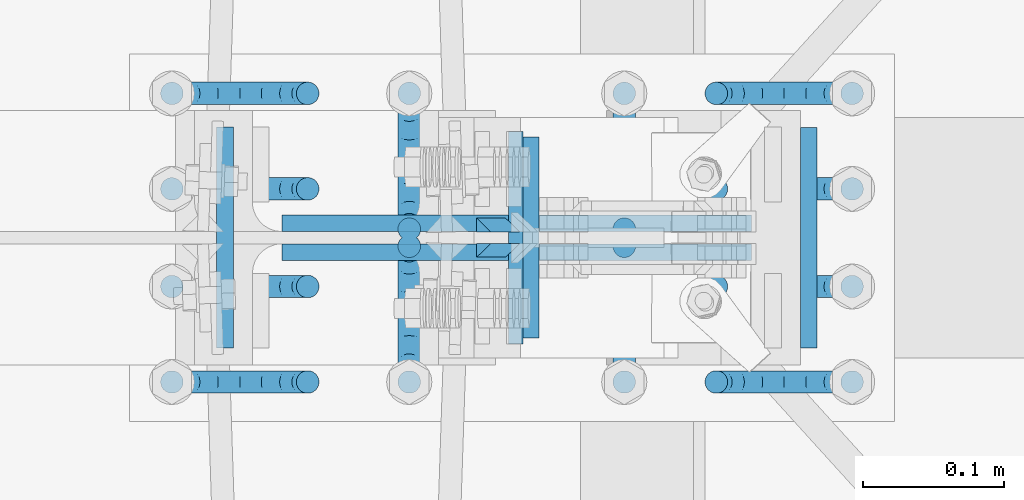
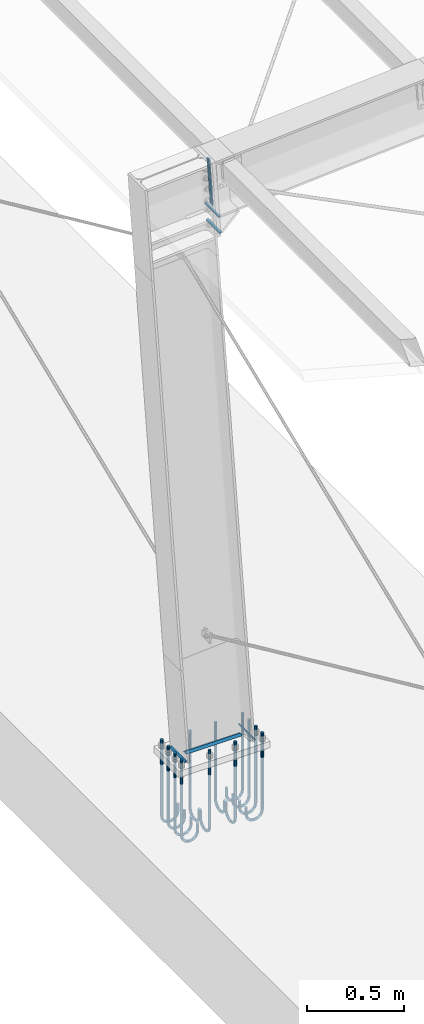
# One storey, part 16 of 72: 16 fasteners, 3 reinforcing bars.
"""IFC4 building model written with IfcOpenShell, lengths in metres."""

from ifc_helpers import new_model, entity, si_unit, frame, origin_with_axes, place, context, project, spatial, polyline, outline, extrude, source, transform, mapped, type_object, element, save


model = new_model("IFC4")

# Units and contexts
model_context = context("Model", 3, precision=1e-05, world=origin_with_axes())
ifc_project = project(units=[si_unit("LENGTHUNIT", "METRE"), si_unit("AREAUNIT", "SQUARE_METRE"), si_unit("VOLUMEUNIT", "CUBIC_METRE"), si_unit("MASSUNIT", "GRAM", prefix="KILO"), si_unit("TIMEUNIT", "SECOND"), si_unit("PLANEANGLEUNIT", "RADIAN"), si_unit("SOLIDANGLEUNIT", "STERADIAN"), si_unit("THERMODYNAMICTEMPERATUREUNIT", "DEGREE_CELSIUS")], contexts=[model_context])

# Site, building, storey
placement_1 = place(None, origin_with_axes())
site = spatial("IfcSite", under=ifc_project, at=placement_1, Name="Italia", CompositionType="ELEMENT")
building = spatial("IfcBuilding", under=site, at=placement_1, Name="Pensilina", CompositionType="ELEMENT")
storey = spatial("IfcBuildingStorey", under=building, at=placement_1, Name="Storey 0", CompositionType="ELEMENT", Elevation=0.0)

# Fasteners
fastener_type_1 = type_object("IfcFastenerType", Name="Collegamento 0003_-198", PredefinedType="WELD")
placement_2 = place(placement_1, origin_with_axes())
fastener_1_placement = place(placement_2, origin_with_axes())
element("IfcFastener", 1, at=fastener_1_placement, inside=storey, type_object=fastener_type_1, Name="Collegamento 0003_-198", context=model_context, shape_type="SweptSolid", body=[
    extrude(outline(polyline([(0.0, 0.0, 0.0), (0.0118082, 0.0121734, 0.0), (0.0118082, 0.0, 0.0), (0.0, 0.0, 0.0)])), frame((1.14428, 10.4819, 0.103658), z_axis=(0.0, 1.0, 0.0), x_axis=(-1.0, 0.0, 0.0)), (0.0, 0.0, 1.0), 0.156101),
])
fastener_type_2 = type_object("IfcFastenerType", Name="Collegamento 0003_-198", PredefinedType="WELD")
fastener_2_placement = place(placement_2, origin_with_axes())
element("IfcFastener", 2, at=fastener_2_placement, inside=storey, type_object=fastener_type_2, Name="Collegamento 0003_-198", context=model_context, shape_type="SweptSolid", body=[
    extrude(outline(polyline([(0.0, 0.0, 0.0), (0.0118082, 0.0121734, 0.0), (0.0118082, 0.0, 0.0), (0.0, 0.0, 0.0)])), frame((0.719817, 10.6381, 0.103658), z_axis=(0.0, -1.0, 0.0), x_axis=(1.0, 0.0, 0.0)), (0.0, 0.0, 1.0), 0.1561),
])
fastener_type_3 = type_object("IfcFastenerType", Name="Collegamento 0003_-198", PredefinedType="WELD")
fastener_3_placement = place(placement_2, origin_with_axes())
element("IfcFastener", 3, at=fastener_3_placement, inside=storey, type_object=fastener_type_3, Name="Collegamento 0003_-198", context=model_context, shape_type="SweptSolid", body=[
    extrude(outline(polyline([(0.0, 0.0, 0.0), (0.0118074, 0.0121734, 0.0), (0.0118074, 0.0, 0.0), (0.0, 0.0, 0.0)])), frame((0.766057, 10.5439, 0.103658), z_axis=(1.0, 0.0, 0.0), x_axis=(0.0, 1.0, 0.0)), (0.0, 0.0, 1.0), 0.331979),
])
fastener_type_4 = type_object("IfcFastenerType", Name="Collegamento 0003_-198", PredefinedType="WELD")
fastener_4_placement = place(placement_2, origin_with_axes())
element("IfcFastener", 4, at=fastener_4_placement, inside=storey, type_object=fastener_type_4, Name="Collegamento 0003_-198", context=model_context, shape_type="SweptSolid", body=[
    extrude(outline(polyline([(0.0, 0.0, 0.0), (0.0118074, 0.0121734, 0.0), (0.0118074, 0.0, 0.0), (0.0, 0.0, 0.0)])), frame((1.09804, 10.5761, 0.103658), z_axis=(-1.0, 0.0, 0.0), x_axis=(0.0, -1.0, 0.0)), (0.0, 0.0, 1.0), 0.331979),
])
fastener_type_5 = type_object("IfcFastenerType", Name="Collegamento 0003_-198", PredefinedType="WELD")
fastener_5_placement = place(placement_2, origin_with_axes())
element("IfcFastener", 5, at=fastener_5_placement, inside=storey, type_object=fastener_type_5, Name="Collegamento 0003_-198", context=model_context, shape_type="SweptSolid", body=[
    extrude(outline(polyline([(0.0, 0.0, 0.0), (0.0118082, 0.0121734, 0.0), (0.0118082, 0.0, 0.0), (0.0, 0.0, 0.0)])), frame((1.14428, 10.4819, 0.103658), z_axis=(0.0, 1.0, 0.0), x_axis=(-1.0, 0.0, 0.0)), (0.0, 0.0, 1.0), 0.156101),
])
fastener_type_6 = type_object("IfcFastenerType", Name="Collegamento 0003_-198", PredefinedType="WELD")
fastener_6_placement = place(placement_2, origin_with_axes())
element("IfcFastener", 6, at=fastener_6_placement, inside=storey, type_object=fastener_type_6, Name="Collegamento 0003_-198", context=model_context, shape_type="SweptSolid", body=[
    extrude(outline(polyline([(0.0, 0.0, 0.0), (0.0118082, 0.0121734, 0.0), (0.0118082, 0.0, 0.0), (0.0, 0.0, 0.0)])), frame((0.719817, 10.6381, 0.103658), z_axis=(0.0, -1.0, 0.0), x_axis=(1.0, 0.0, 0.0)), (0.0, 0.0, 1.0), 0.1561),
])
fastener_type_7 = type_object("IfcFastenerType", Name="Collegamento 0003_-198", PredefinedType="WELD")
fastener_7_placement = place(placement_2, origin_with_axes())
element("IfcFastener", 7, at=fastener_7_placement, inside=storey, type_object=fastener_type_7, Name="Collegamento 0003_-198", context=model_context, shape_type="SweptSolid", body=[
    extrude(outline(polyline([(0.0, 0.0, 0.0), (0.0118074, 0.0121734, 0.0), (0.0118074, 0.0, 0.0), (0.0, 0.0, 0.0)])), frame((0.766057, 10.5439, 0.103658), z_axis=(1.0, 0.0, 0.0), x_axis=(0.0, 1.0, 0.0)), (0.0, 0.0, 1.0), 0.331979),
])
fastener_type_8 = type_object("IfcFastenerType", Name="Collegamento 0003_-198", PredefinedType="WELD")
fastener_8_placement = place(placement_2, origin_with_axes())
element("IfcFastener", 8, at=fastener_8_placement, inside=storey, type_object=fastener_type_8, Name="Collegamento 0003_-198", context=model_context, shape_type="SweptSolid", body=[
    extrude(outline(polyline([(0.0, 0.0, 0.0), (0.0118074, 0.0121734, 0.0), (0.0118074, 0.0, 0.0), (0.0, 0.0, 0.0)])), frame((1.09804, 10.5761, 0.103658), z_axis=(-1.0, 0.0, 0.0), x_axis=(0.0, -1.0, 0.0)), (0.0, 0.0, 1.0), 0.331979),
])

# Reinforcing bars
shared_shape_1 = source(origin_with_axes(), model_context, "Body", "AdvancedSweptSolid", [
    entity("IfcSweptDiskSolid", entity("IfcIndexedPolyCurve", entity("IfcCartesianPointList3D", [[0.68823, 10.662, 0.153708], [0.68823, 10.662, -0.330292]]), [entity("IfcLineIndex", [1, 2])], False), 0.008),
])
reinforcing_bar_1_placement = place(placement_2, origin_with_axes())
element("IfcReinforcingBar", 9, at=reinforcing_bar_1_placement, inside=storey, BarLength=0.484, CrossSectionArea=0.00020106, NominalDiameter=0.016, context=model_context, shape_type="MappedRepresentation", body=[
    mapped(shared_shape_1, transform((0.4809, 0.0, 0.0), x_axis=(1.0, 0.0, 0.0), y_axis=(0.0, 1.0, 0.0), z_axis=(0.0, 0.0, 1.0), scale=1.0)),
    mapped(shared_shape_1, transform((0.319817, -0.204, 0.0), x_axis=(1.0, 0.0, 0.0), y_axis=(0.0, 1.0, 0.0), z_axis=(0.0, 0.0, 1.0), scale=1.0)),
    mapped(shared_shape_1, transform((0.319817, 0.0, 0.0), x_axis=(1.0, 0.0, 0.0), y_axis=(0.0, 1.0, 0.0), z_axis=(0.0, 0.0, 1.0), scale=1.0)),
    mapped(shared_shape_1, transform((0.4809, -0.204, 0.0), x_axis=(1.0, 0.0, 0.0), y_axis=(0.0, 1.0, 0.0), z_axis=(0.0, 0.0, 1.0), scale=1.0)),
    mapped(shared_shape_1, transform((0.4809, -0.1365, 0.0), x_axis=(1.0, 0.0, 0.0), y_axis=(0.0, 1.0, 0.0), z_axis=(0.0, 0.0, 1.0), scale=1.0)),
    mapped(shared_shape_1, transform((0.4809, -0.0675001, 0.0), x_axis=(1.0, 0.0, 0.0), y_axis=(0.0, 1.0, 0.0), z_axis=(0.0, 0.0, 1.0), scale=1.0)),
    mapped(shared_shape_1, transform((0.0, -0.1365, 0.0), x_axis=(1.0, 0.0, 0.0), y_axis=(0.0, 1.0, 0.0), z_axis=(0.0, 0.0, 1.0), scale=1.0)),
    mapped(shared_shape_1, transform((0.0, -0.0675001, 0.0), x_axis=(1.0, 0.0, 0.0), y_axis=(0.0, 1.0, 0.0), z_axis=(0.0, 0.0, 1.0), scale=1.0)),
    mapped(shared_shape_1, transform((0.0, 0.0, 0.0), x_axis=(1.0, 0.0, 0.0), y_axis=(0.0, 1.0, 0.0), z_axis=(0.0, 0.0, 1.0), scale=1.0)),
    mapped(shared_shape_1, transform((0.167817, -0.204, 0.0), x_axis=(1.0, 0.0, 0.0), y_axis=(0.0, 1.0, 0.0), z_axis=(0.0, 0.0, 1.0), scale=1.0)),
    mapped(shared_shape_1, transform((0.167817, 0.0, 0.0), x_axis=(1.0, 0.0, 0.0), y_axis=(0.0, 1.0, 0.0), z_axis=(0.0, 0.0, 1.0), scale=1.0)),
    mapped(shared_shape_1, transform((0.0, -0.204, 0.0), x_axis=(1.0, 0.0, 0.0), y_axis=(0.0, 1.0, 0.0), z_axis=(0.0, 0.0, 1.0), scale=1.0)),
])
shared_shape_2 = source(origin_with_axes(), model_context, "Body", "AdvancedSweptSolid", [
    entity("IfcSweptDiskSolid", entity("IfcIndexedPolyCurve", entity("IfcCartesianPointList3D", [[0.68823, 10.662, -0.330292], [0.691883, 10.662, -0.348661]]), [entity("IfcLineIndex", [1, 2])], False), 0.008),
])
reinforcing_bar_2_placement = place(placement_2, origin_with_axes())
element("IfcReinforcingBar", 10, at=reinforcing_bar_2_placement, inside=storey, BarLength=0.0187287, CrossSectionArea=0.00020106, NominalDiameter=0.016, context=model_context, shape_type="MappedRepresentation", body=[
    mapped(shared_shape_2, transform((0.0, -0.204, 0.0), x_axis=(1.0, 0.0, 0.0), y_axis=(0.0, 1.0, 0.0), z_axis=(0.0, 0.0, 1.0), scale=1.0)),
    mapped(shared_shape_2, transform((-9.80595, 11.4206, -0.30687), x_axis=(0.0, -0.923887, 0.382666), y_axis=(1.0, 0.0, 0.0), z_axis=(0.0, 0.382666, 0.923887), scale=1.0)),
    mapped(shared_shape_2, transform((-0.0703552, -0.204, -0.306887), x_axis=(0.923879, 0.0, 0.382685), y_axis=(0.0, 1.0, 0.0), z_axis=(-0.382685, 0.0, 0.923879), scale=1.0)),
    mapped(shared_shape_2, transform((-0.0179144, 0.0, -0.617335), x_axis=(0.707105, 0.0, 0.707108), y_axis=(0.0, 1.0, 0.0), z_axis=(-0.707108, 0.0, 0.707105), scale=1.0)),
    mapped(shared_shape_2, transform((0.149338, -0.0675001, -0.884083), x_axis=(0.382682, 0.0, 0.92388), y_axis=(0.0, 1.0, 0.0), z_axis=(-0.92388, 0.0, 0.382682), scale=1.0)),
    mapped(shared_shape_2, transform((-0.0179144, -0.0675001, -0.617335), x_axis=(0.707105, 0.0, 0.707108), y_axis=(0.0, 1.0, 0.0), z_axis=(-0.707108, 0.0, 0.707105), scale=1.0)),
    mapped(shared_shape_2, transform((1.02327, -0.204, -1.08444), x_axis=(-0.707106, 0.0, 0.707108), y_axis=(0.0, 1.0, 0.0), z_axis=(-0.707108, 0.0, -0.707106), scale=1.0)),
    mapped(shared_shape_2, transform((0.149338, -0.204, -0.884083), x_axis=(0.382682, 0.0, 0.92388), y_axis=(0.0, 1.0, 0.0), z_axis=(-0.92388, 0.0, 0.382682), scale=1.0)),
    mapped(shared_shape_2, transform((-9.80595, 10.3269, -1.08443), x_axis=(0.0, 0.707119, 0.707095), y_axis=(1.0, 0.0, 0.0), z_axis=(0.0, 0.707095, -0.707119), scale=1.0)),
    mapped(shared_shape_2, transform((-9.80595, 11.2009, -0.884085), x_axis=(0.0, -0.382679, 0.923881), y_axis=(1.0, 0.0, 0.0), z_axis=(0.0, 0.923881, 0.382679), scale=1.0)),
    mapped(shared_shape_2, transform((0.712824, -0.0675001, -1.13688), x_axis=(-0.382684, 0.0, 0.923879), y_axis=(0.0, 1.0, 0.0), z_axis=(-0.923879, 0.0, -0.382684), scale=1.0)),
    mapped(shared_shape_2, transform((-9.80595, 10.9443, -1.06652), x_axis=(0.0, 0.0, 1.0), y_axis=(1.0, 0.0, 0.0), z_axis=(0.0, 1.0, 0.0), scale=1.0)),
    mapped(shared_shape_2, transform((1.29002, -0.204, -0.917183), x_axis=(-0.923881, 0.0, 0.382679), y_axis=(0.0, 1.0, 0.0), z_axis=(-0.382679, 0.0, -0.923881), scale=1.0)),
    mapped(shared_shape_2, transform((11.518, 10.4826, -1.13688), x_axis=(0.0, -0.382692, 0.923876), y_axis=(-1.0, 0.0, 0.0), z_axis=(0.0, -0.923876, -0.382692), scale=1.0)),
    mapped(shared_shape_2, transform((-0.0703552, 0.0, -0.306887), x_axis=(0.923879, 0.0, 0.382685), y_axis=(0.0, 1.0, 0.0), z_axis=(-0.382685, 0.0, 0.923879), scale=1.0)),
    mapped(shared_shape_2, transform((0.149338, 0.0, -0.884083), x_axis=(0.382682, 0.0, 0.92388), y_axis=(0.0, 1.0, 0.0), z_axis=(-0.92388, 0.0, 0.382682), scale=1.0)),
    mapped(shared_shape_2, transform((0.405939, 0.0, -1.06652), x_axis=(0.0, 0.0, 1.0), y_axis=(0.0, 1.0, 0.0), z_axis=(-1.0, 0.0, 0.0), scale=1.0)),
    mapped(shared_shape_2, transform((0.712824, -0.204, -1.13688), x_axis=(-0.382684, 0.0, 0.923879), y_axis=(0.0, 1.0, 0.0), z_axis=(-0.923879, 0.0, -0.382684), scale=1.0)),
    mapped(shared_shape_2, transform((1.02327, -0.1365, -1.08444), x_axis=(-0.707106, 0.0, 0.707108), y_axis=(0.0, 1.0, 0.0), z_axis=(-0.707108, 0.0, -0.707106), scale=1.0)),
    mapped(shared_shape_2, transform((0.712824, -0.1365, -1.13688), x_axis=(-0.382684, 0.0, 0.923879), y_axis=(0.0, 1.0, 0.0), z_axis=(-0.923879, 0.0, -0.382684), scale=1.0)),
    mapped(shared_shape_2, transform((1.02327, 0.0, -1.08444), x_axis=(-0.707106, 0.0, 0.707108), y_axis=(0.0, 1.0, 0.0), z_axis=(-0.707108, 0.0, -0.707106), scale=1.0)),
    mapped(shared_shape_2, transform((1.02327, -0.0675001, -1.08444), x_axis=(-0.707106, 0.0, 0.707108), y_axis=(0.0, 1.0, 0.0), z_axis=(-0.707108, 0.0, -0.707106), scale=1.0)),
    mapped(shared_shape_2, transform((-9.80595, 11.3681, -0.617336), x_axis=(0.0, -0.707104, 0.70711), y_axis=(1.0, 0.0, 0.0), z_axis=(0.0, 0.70711, 0.707104), scale=1.0)),
    mapped(shared_shape_2, transform((-0.0179144, -0.204, -0.617335), x_axis=(0.707105, 0.0, 0.707108), y_axis=(0.0, 1.0, 0.0), z_axis=(-0.707108, 0.0, 0.707105), scale=1.0)),
    mapped(shared_shape_2, transform((0.0, -0.1365, 0.0), x_axis=(1.0, 0.0, 0.0), y_axis=(0.0, 1.0, 0.0), z_axis=(0.0, 0.0, 1.0), scale=1.0)),
    mapped(shared_shape_2, transform((0.405939, -0.204, -1.06652), x_axis=(0.0, 0.0, 1.0), y_axis=(0.0, 1.0, 0.0), z_axis=(-1.0, 0.0, 0.0), scale=1.0)),
    mapped(shared_shape_2, transform((1.29002, -0.1365, -0.917183), x_axis=(-0.923881, 0.0, 0.382679), y_axis=(0.0, 1.0, 0.0), z_axis=(-0.382679, 0.0, -0.923881), scale=1.0)),
    mapped(shared_shape_2, transform((-0.0179144, -0.1365, -0.617335), x_axis=(0.707105, 0.0, 0.707108), y_axis=(0.0, 1.0, 0.0), z_axis=(-0.707108, 0.0, 0.707105), scale=1.0)),
    mapped(shared_shape_2, transform((-0.0703552, -0.1365, -0.306887), x_axis=(0.923879, 0.0, 0.382685), y_axis=(0.0, 1.0, 0.0), z_axis=(-0.382685, 0.0, 0.923879), scale=1.0)),
    mapped(shared_shape_2, transform((0.0, -0.0675001, 0.0), x_axis=(1.0, 0.0, 0.0), y_axis=(0.0, 1.0, 0.0), z_axis=(0.0, 0.0, 1.0), scale=1.0)),
    mapped(shared_shape_2, transform((0.149338, -0.1365, -0.884083), x_axis=(0.382682, 0.0, 0.92388), y_axis=(0.0, 1.0, 0.0), z_axis=(-0.92388, 0.0, 0.382682), scale=1.0)),
    mapped(shared_shape_2, transform((-0.0703552, -0.0675001, -0.306887), x_axis=(0.923879, 0.0, 0.382685), y_axis=(0.0, 1.0, 0.0), z_axis=(-0.382685, 0.0, 0.923879), scale=1.0)),
    mapped(shared_shape_2, transform((0.0, 0.0, 0.0), x_axis=(1.0, 0.0, 0.0), y_axis=(0.0, 1.0, 0.0), z_axis=(0.0, 0.0, 1.0), scale=1.0)),
    mapped(shared_shape_2, transform((0.712824, 0.0, -1.13688), x_axis=(-0.382684, 0.0, 0.923879), y_axis=(0.0, 1.0, 0.0), z_axis=(-0.923879, 0.0, -0.382684), scale=1.0)),
    mapped(shared_shape_2, transform((-9.65395, 10.3269, -1.08443), x_axis=(0.0, 0.707119, 0.707095), y_axis=(1.0, 0.0, 0.0), z_axis=(0.0, 0.707095, -0.707119), scale=1.0)),
    mapped(shared_shape_2, transform((0.405939, -0.1365, -1.06652), x_axis=(0.0, 0.0, 1.0), y_axis=(0.0, 1.0, 0.0), z_axis=(-1.0, 0.0, 0.0), scale=1.0)),
    mapped(shared_shape_2, transform((1.29002, -0.0675001, -0.917183), x_axis=(-0.923881, 0.0, 0.382679), y_axis=(0.0, 1.0, 0.0), z_axis=(-0.382679, 0.0, -0.923881), scale=1.0)),
    mapped(shared_shape_2, transform((-9.80595, 11.3502, -2.5779e-05), x_axis=(0.0, -1.0, 3.74466e-05), y_axis=(1.0, 0.0, 0.0), z_axis=(0.0, 3.74466e-05, 1.0), scale=1.0)),
    mapped(shared_shape_2, transform((-9.80595, 10.6374, -1.13688), x_axis=(0.0, 0.382692, 0.923876), y_axis=(1.0, 0.0, 0.0), z_axis=(0.0, 0.923876, -0.382692), scale=1.0)),
    mapped(shared_shape_2, transform((-9.65395, 10.9443, -1.06652), x_axis=(0.0, 0.0, 1.0), y_axis=(1.0, 0.0, 0.0), z_axis=(0.0, 1.0, 0.0), scale=1.0)),
    mapped(shared_shape_2, transform((0.405939, -0.0675001, -1.06652), x_axis=(0.0, 0.0, 1.0), y_axis=(0.0, 1.0, 0.0), z_axis=(-1.0, 0.0, 0.0), scale=1.0)),
    mapped(shared_shape_2, transform((11.67, 10.1757, -1.06652), x_axis=(0.0, 0.0, 1.0), y_axis=(-1.0, 0.0, 0.0), z_axis=(0.0, -1.0, 0.0), scale=1.0)),
    mapped(shared_shape_2, transform((1.29002, 0.0, -0.917183), x_axis=(-0.923881, 0.0, 0.382679), y_axis=(0.0, 1.0, 0.0), z_axis=(-0.382679, 0.0, -0.923881), scale=1.0)),
    mapped(shared_shape_2, transform((11.518, 9.76976, -2.5779e-05), x_axis=(0.0, 1.0, 3.74466e-05), y_axis=(-1.0, 0.0, 0.0), z_axis=(0.0, -3.74466e-05, 1.0), scale=1.0)),
    mapped(shared_shape_2, transform((11.518, 9.69942, -0.30687), x_axis=(0.0, 0.923887, 0.382666), y_axis=(-1.0, 0.0, 0.0), z_axis=(0.0, -0.382666, 0.923887), scale=1.0)),
    mapped(shared_shape_2, transform((11.67, 9.69942, -0.30687), x_axis=(0.0, 0.923887, 0.382666), y_axis=(-1.0, 0.0, 0.0), z_axis=(0.0, -0.382666, 0.923887), scale=1.0)),
    mapped(shared_shape_2, transform((11.518, 9.75186, -0.617336), x_axis=(0.0, 0.707104, 0.70711), y_axis=(-1.0, 0.0, 0.0), z_axis=(0.0, -0.70711, 0.707104), scale=1.0)),
    mapped(shared_shape_2, transform((11.67, 9.76976, -2.5779e-05), x_axis=(0.0, 1.0, 3.74466e-05), y_axis=(-1.0, 0.0, 0.0), z_axis=(0.0, -3.74466e-05, 1.0), scale=1.0)),
    mapped(shared_shape_2, transform((11.518, 9.91911, -0.884085), x_axis=(0.0, 0.382679, 0.923881), y_axis=(-1.0, 0.0, 0.0), z_axis=(0.0, -0.923881, 0.382679), scale=1.0)),
    mapped(shared_shape_2, transform((11.67, 9.75186, -0.617336), x_axis=(0.0, 0.707104, 0.70711), y_axis=(-1.0, 0.0, 0.0), z_axis=(0.0, -0.70711, 0.707104), scale=1.0)),
    mapped(shared_shape_2, transform((11.67, 9.91911, -0.884085), x_axis=(0.0, 0.382679, 0.923881), y_axis=(-1.0, 0.0, 0.0), z_axis=(0.0, -0.923881, 0.382679), scale=1.0)),
    mapped(shared_shape_2, transform((11.518, 10.1757, -1.06652), x_axis=(0.0, 0.0, 1.0), y_axis=(-1.0, 0.0, 0.0), z_axis=(0.0, -1.0, 0.0), scale=1.0)),
    mapped(shared_shape_2, transform((-9.65395, 10.0602, -0.917199), x_axis=(0.0, 0.923869, 0.382708), y_axis=(1.0, 0.0, 0.0), z_axis=(0.0, 0.382708, -0.923869), scale=1.0)),
    mapped(shared_shape_2, transform((-9.80595, 10.0602, -0.917199), x_axis=(0.0, 0.923869, 0.382708), y_axis=(1.0, 0.0, 0.0), z_axis=(0.0, 0.382708, -0.923869), scale=1.0)),
    mapped(shared_shape_2, transform((-9.65395, 11.3681, -0.617336), x_axis=(0.0, -0.707104, 0.70711), y_axis=(1.0, 0.0, 0.0), z_axis=(0.0, 0.70711, 0.707104), scale=1.0)),
    mapped(shared_shape_2, transform((-9.65395, 11.3502, -2.5779e-05), x_axis=(0.0, -1.0, 3.74466e-05), y_axis=(1.0, 0.0, 0.0), z_axis=(0.0, 3.74466e-05, 1.0), scale=1.0)),
    mapped(shared_shape_2, transform((-9.65395, 11.2009, -0.884085), x_axis=(0.0, -0.382679, 0.923881), y_axis=(1.0, 0.0, 0.0), z_axis=(0.0, 0.923881, 0.382679), scale=1.0)),
    mapped(shared_shape_2, transform((-9.65395, 11.4206, -0.30687), x_axis=(0.0, -0.923887, 0.382666), y_axis=(1.0, 0.0, 0.0), z_axis=(0.0, 0.382666, 0.923887), scale=1.0)),
    mapped(shared_shape_2, transform((-9.65395, 10.6374, -1.13688), x_axis=(0.0, 0.382692, 0.923876), y_axis=(1.0, 0.0, 0.0), z_axis=(0.0, 0.923876, -0.382692), scale=1.0)),
    mapped(shared_shape_2, transform((1.92771, 21.12, -0.306887), x_axis=(-0.923879, 0.0, 0.382685), y_axis=(0.0, -1.0, 0.0), z_axis=(0.382685, 0.0, 0.923879), scale=1.0)),
    mapped(shared_shape_2, transform((1.85736, 21.12, 0.0), x_axis=(-1.0, 0.0, 0.0), y_axis=(0.0, -1.0, 0.0), z_axis=(0.0, 0.0, 1.0), scale=1.0)),
    mapped(shared_shape_2, transform((1.87528, 21.12, -0.617331), x_axis=(-0.707109, 0.0, 0.707105), y_axis=(0.0, -1.0, 0.0), z_axis=(0.707105, 0.0, 0.707109), scale=1.0)),
    mapped(shared_shape_2, transform((11.518, 10.7931, -1.08443), x_axis=(0.0, -0.707119, 0.707095), y_axis=(-1.0, 0.0, 0.0), z_axis=(0.0, -0.707095, -0.707119), scale=1.0)),
    mapped(shared_shape_2, transform((11.518, 11.0598, -0.917199), x_axis=(0.0, -0.923869, 0.382708), y_axis=(-1.0, 0.0, 0.0), z_axis=(0.0, -0.382708, -0.923869), scale=1.0)),
    mapped(shared_shape_2, transform((1.70802, 21.12, -0.884083), x_axis=(-0.382682, 0.0, 0.92388), y_axis=(0.0, -1.0, 0.0), z_axis=(0.92388, 0.0, 0.382682), scale=1.0)),
    mapped(shared_shape_2, transform((0.567341, 21.12, -0.917186), x_axis=(0.923879, 0.0, 0.382685), y_axis=(0.0, -1.0, 0.0), z_axis=(0.382685, 0.0, -0.923879), scale=1.0)),
    mapped(shared_shape_2, transform((11.67, 11.0598, -0.917199), x_axis=(0.0, -0.923869, 0.382708), y_axis=(-1.0, 0.0, 0.0), z_axis=(0.0, -0.382708, -0.923869), scale=1.0)),
    mapped(shared_shape_2, transform((1.45142, 21.12, -1.06652), x_axis=(0.0, 0.0, 1.0), y_axis=(0.0, -1.0, 0.0), z_axis=(1.0, 0.0, 0.0), scale=1.0)),
    mapped(shared_shape_2, transform((0.567341, 21.324, -0.917186), x_axis=(0.923879, 0.0, 0.382685), y_axis=(0.0, -1.0, 0.0), z_axis=(0.382685, 0.0, -0.923879), scale=1.0)),
    mapped(shared_shape_2, transform((0.834084, 21.12, -1.08443), x_axis=(0.707111, 0.0, 0.707102), y_axis=(0.0, -1.0, 0.0), z_axis=(0.707102, 0.0, -0.707111), scale=1.0)),
    mapped(shared_shape_2, transform((0.834084, 21.324, -1.08443), x_axis=(0.707111, 0.0, 0.707102), y_axis=(0.0, -1.0, 0.0), z_axis=(0.707102, 0.0, -0.707111), scale=1.0)),
    mapped(shared_shape_2, transform((0.567341, 21.1875, -0.917186), x_axis=(0.923879, 0.0, 0.382685), y_axis=(0.0, -1.0, 0.0), z_axis=(0.382685, 0.0, -0.923879), scale=1.0)),
    mapped(shared_shape_2, transform((0.834084, 21.1875, -1.08443), x_axis=(0.707111, 0.0, 0.707102), y_axis=(0.0, -1.0, 0.0), z_axis=(0.707102, 0.0, -0.707111), scale=1.0)),
    mapped(shared_shape_2, transform((11.67, 10.7931, -1.08443), x_axis=(0.0, -0.707119, 0.707095), y_axis=(-1.0, 0.0, 0.0), z_axis=(0.0, -0.707095, -0.707119), scale=1.0)),
    mapped(shared_shape_2, transform((0.567341, 21.2565, -0.917186), x_axis=(0.923879, 0.0, 0.382685), y_axis=(0.0, -1.0, 0.0), z_axis=(0.382685, 0.0, -0.923879), scale=1.0)),
    mapped(shared_shape_2, transform((0.834084, 21.2565, -1.08443), x_axis=(0.707111, 0.0, 0.707102), y_axis=(0.0, -1.0, 0.0), z_axis=(0.707102, 0.0, -0.707111), scale=1.0)),
    mapped(shared_shape_2, transform((1.14454, 21.1875, -1.13688), x_axis=(0.382683, 0.0, 0.92388), y_axis=(0.0, -1.0, 0.0), z_axis=(0.92388, 0.0, -0.382683), scale=1.0)),
    mapped(shared_shape_2, transform((1.14454, 21.12, -1.13688), x_axis=(0.382683, 0.0, 0.92388), y_axis=(0.0, -1.0, 0.0), z_axis=(0.92388, 0.0, -0.382683), scale=1.0)),
    mapped(shared_shape_2, transform((1.85736, 21.1875, 0.0), x_axis=(-1.0, 0.0, 0.0), y_axis=(0.0, -1.0, 0.0), z_axis=(0.0, 0.0, 1.0), scale=1.0)),
    mapped(shared_shape_2, transform((1.92771, 21.1875, -0.306887), x_axis=(-0.923879, 0.0, 0.382685), y_axis=(0.0, -1.0, 0.0), z_axis=(0.382685, 0.0, 0.923879), scale=1.0)),
    mapped(shared_shape_2, transform((1.87528, 21.1875, -0.617331), x_axis=(-0.707109, 0.0, 0.707105), y_axis=(0.0, -1.0, 0.0), z_axis=(0.707105, 0.0, 0.707109), scale=1.0)),
    mapped(shared_shape_2, transform((1.70802, 21.1875, -0.884083), x_axis=(-0.382682, 0.0, 0.92388), y_axis=(0.0, -1.0, 0.0), z_axis=(0.92388, 0.0, 0.382682), scale=1.0)),
    mapped(shared_shape_2, transform((1.45142, 21.1875, -1.06652), x_axis=(0.0, 0.0, 1.0), y_axis=(0.0, -1.0, 0.0), z_axis=(1.0, 0.0, 0.0), scale=1.0)),
    mapped(shared_shape_2, transform((1.85736, 21.2565, 0.0), x_axis=(-1.0, 0.0, 0.0), y_axis=(0.0, -1.0, 0.0), z_axis=(0.0, 0.0, 1.0), scale=1.0)),
    mapped(shared_shape_2, transform((1.87528, 21.2565, -0.617331), x_axis=(-0.707109, 0.0, 0.707105), y_axis=(0.0, -1.0, 0.0), z_axis=(0.707105, 0.0, 0.707109), scale=1.0)),
    mapped(shared_shape_2, transform((1.92771, 21.2565, -0.306887), x_axis=(-0.923879, 0.0, 0.382685), y_axis=(0.0, -1.0, 0.0), z_axis=(0.382685, 0.0, 0.923879), scale=1.0)),
    mapped(shared_shape_2, transform((1.70802, 21.2565, -0.884083), x_axis=(-0.382682, 0.0, 0.92388), y_axis=(0.0, -1.0, 0.0), z_axis=(0.92388, 0.0, 0.382682), scale=1.0)),
    mapped(shared_shape_2, transform((1.45142, 21.2565, -1.06652), x_axis=(0.0, 0.0, 1.0), y_axis=(0.0, -1.0, 0.0), z_axis=(1.0, 0.0, 0.0), scale=1.0)),
    mapped(shared_shape_2, transform((1.14454, 21.2565, -1.13688), x_axis=(0.382683, 0.0, 0.92388), y_axis=(0.0, -1.0, 0.0), z_axis=(0.92388, 0.0, -0.382683), scale=1.0)),
    mapped(shared_shape_2, transform((1.85736, 21.324, 0.0), x_axis=(-1.0, 0.0, 0.0), y_axis=(0.0, -1.0, 0.0), z_axis=(0.0, 0.0, 1.0), scale=1.0)),
    mapped(shared_shape_2, transform((1.92771, 21.324, -0.306887), x_axis=(-0.923879, 0.0, 0.382685), y_axis=(0.0, -1.0, 0.0), z_axis=(0.382685, 0.0, 0.923879), scale=1.0)),
    mapped(shared_shape_2, transform((1.87528, 21.324, -0.617331), x_axis=(-0.707109, 0.0, 0.707105), y_axis=(0.0, -1.0, 0.0), z_axis=(0.707105, 0.0, 0.707109), scale=1.0)),
    mapped(shared_shape_2, transform((1.45142, 21.324, -1.06652), x_axis=(0.0, 0.0, 1.0), y_axis=(0.0, -1.0, 0.0), z_axis=(1.0, 0.0, 0.0), scale=1.0)),
    mapped(shared_shape_2, transform((1.70802, 21.324, -0.884083), x_axis=(-0.382682, 0.0, 0.92388), y_axis=(0.0, -1.0, 0.0), z_axis=(0.92388, 0.0, 0.382682), scale=1.0)),
    mapped(shared_shape_2, transform((11.67, 10.4826, -1.13688), x_axis=(0.0, -0.382692, 0.923876), y_axis=(-1.0, 0.0, 0.0), z_axis=(0.0, -0.923876, -0.382692), scale=1.0)),
    mapped(shared_shape_2, transform((1.14454, 21.324, -1.13688), x_axis=(0.382683, 0.0, 0.92388), y_axis=(0.0, -1.0, 0.0), z_axis=(0.92388, 0.0, -0.382683), scale=1.0)),
])
shared_shape_3 = source(origin_with_axes(), model_context, "Body", "AdvancedSweptSolid", [
    entity("IfcSweptDiskSolid", entity("IfcIndexedPolyCurve", entity("IfcCartesianPointList3D", [[0.78423, 10.662, -0.330291], [0.78423, 10.662, -0.282292]]), [entity("IfcLineIndex", [1, 2])], False), 0.008),
])
reinforcing_bar_3_placement = place(placement_2, origin_with_axes())
element("IfcReinforcingBar", 11, at=reinforcing_bar_3_placement, inside=storey, BarLength=0.0479995, CrossSectionArea=0.00020106, NominalDiameter=0.016, context=model_context, shape_type="MappedRepresentation", body=[
    mapped(shared_shape_3, transform((0.2889, 0.0, 0.0), x_axis=(1.0, 0.0, 0.0), y_axis=(0.0, 1.0, 0.0), z_axis=(0.0, 0.0, 1.0), scale=1.0)),
    mapped(shared_shape_3, transform((0.223817, -0.108, 0.0), x_axis=(1.0, 0.0, 0.0), y_axis=(0.0, 1.0, 0.0), z_axis=(0.0, 0.0, 1.0), scale=1.0)),
    mapped(shared_shape_3, transform((0.223817, -0.0960007, 0.0), x_axis=(1.0, 0.0, 0.0), y_axis=(0.0, 1.0, 0.0), z_axis=(0.0, 0.0, 1.0), scale=1.0)),
    mapped(shared_shape_3, transform((0.2889, -0.204, 0.0), x_axis=(1.0, 0.0, 0.0), y_axis=(0.0, 1.0, 0.0), z_axis=(0.0, 0.0, 1.0), scale=1.0)),
    mapped(shared_shape_3, transform((0.2889, -0.1365, 0.0), x_axis=(1.0, 0.0, 0.0), y_axis=(0.0, 1.0, 0.0), z_axis=(0.0, 0.0, 1.0), scale=1.0)),
    mapped(shared_shape_3, transform((0.2889, -0.0675001, 0.0), x_axis=(1.0, 0.0, 0.0), y_axis=(0.0, 1.0, 0.0), z_axis=(0.0, 0.0, 1.0), scale=1.0)),
    mapped(shared_shape_3, transform((0.0, -0.1365, 0.0), x_axis=(1.0, 0.0, 0.0), y_axis=(0.0, 1.0, 0.0), z_axis=(0.0, 0.0, 1.0), scale=1.0)),
    mapped(shared_shape_3, transform((0.0, -0.0675001, 0.0), x_axis=(1.0, 0.0, 0.0), y_axis=(0.0, 1.0, 0.0), z_axis=(0.0, 0.0, 1.0), scale=1.0)),
    mapped(shared_shape_3, transform((0.0, 0.0, 0.0), x_axis=(1.0, 0.0, 0.0), y_axis=(0.0, 1.0, 0.0), z_axis=(0.0, 0.0, 1.0), scale=1.0)),
    mapped(shared_shape_3, transform((0.0718169, -0.108, 0.0), x_axis=(1.0, 0.0, 0.0), y_axis=(0.0, 1.0, 0.0), z_axis=(0.0, 0.0, 1.0), scale=1.0)),
    mapped(shared_shape_3, transform((0.0718169, -0.0960007, 0.0), x_axis=(1.0, 0.0, 0.0), y_axis=(0.0, 1.0, 0.0), z_axis=(0.0, 0.0, 1.0), scale=1.0)),
    mapped(shared_shape_3, transform((0.0, -0.204, 0.0), x_axis=(1.0, 0.0, 0.0), y_axis=(0.0, 1.0, 0.0), z_axis=(0.0, 0.0, 1.0), scale=1.0)),
])

# Fasteners
fastener_type_9 = type_object("IfcFastenerType", Name="Collegamento 0103_0203", PredefinedType="WELD")
fastener_9_placement = place(placement_2, origin_with_axes())
element("IfcFastener", 12, at=fastener_9_placement, inside=storey, type_object=fastener_type_9, Name="Collegamento 0103_0203", context=model_context, shape_type="SweptSolid", body=[
    extrude(outline(polyline([(0.0, 0.0, 0.0), (-0.00947303, 0.0105422, 0.0), (0.000676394, 0.00984478, 0.0), (0.0, 0.0, 0.0)])), frame((0.926961, 10.485, 3.45975), z_axis=(0.0, 1.0, 0.0), x_axis=(-1.0, 0.0, 0.0)), (0.0, 0.0, 1.0), 0.150101),
])
fastener_type_10 = type_object("IfcFastenerType", Name="Collegamento 0103_0203", PredefinedType="WELD")
fastener_10_placement = place(placement_2, origin_with_axes())
element("IfcFastener", 13, at=fastener_10_placement, inside=storey, type_object=fastener_type_10, Name="Collegamento 0103_0203", context=model_context, shape_type="SweptSolid", body=[
    extrude(outline(polyline([(0.0, 0.0, 0.0), (0.00986767, 0.0101733, 0.0), (0.00986767, 0.0, 0.0), (0.0, 0.0, 0.0)])), frame((0.924187, 10.5738, 3.50013), z_axis=(-0.068540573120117, 0.0, 0.997648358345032), x_axis=(0.0, -1.0, 0.0)), (0.0, 0.0, 1.0), 0.2987),
])
fastener_type_11 = type_object("IfcFastenerType", Name="Collegamento 0103_0203", PredefinedType="WELD")
fastener_11_placement = place(placement_2, origin_with_axes())
element("IfcFastener", 14, at=fastener_11_placement, inside=storey, type_object=fastener_type_11, Name="Collegamento 0103_0203", context=model_context, shape_type="SweptSolid", body=[
    extrude(outline(polyline([(0.0, 0.0, 0.0), (0.00986767, 0.0101733, 0.0), (0.00986767, 0.0, 0.0), (0.0, 0.0, 0.0)])), frame((0.903714, 10.5462, 3.79813), z_axis=(0.068540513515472, 0.0, -0.997648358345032), x_axis=(0.0, 1.0, 0.0)), (0.0, 0.0, 1.0), 0.2987),
])
fastener_type_12 = type_object("IfcFastenerType", Name="Collegamento 0103_0203", PredefinedType="WELD")
fastener_12_placement = place(placement_2, origin_with_axes())
element("IfcFastener", 15, at=fastener_12_placement, inside=storey, type_object=fastener_type_12, Name="Collegamento 0103_0203", context=model_context, shape_type="SweptSolid", body=[
    extrude(outline(polyline([(0.0, 0.0, 0.0), (-0.0131977, 0.0146873, 0.0), (0.00094229, 0.013716, 0.0), (0.0, 0.0, 0.0)])), frame((0.934492, 10.489, 3.35013), z_axis=(0.0, 1.0, 0.0), x_axis=(-1.0, 0.0, 0.0)), (0.0, 0.0, 1.0), 0.142099),
])
fastener_type_13 = type_object("IfcFastenerType", Name="Collegamento 0103_0203", PredefinedType="WELD")
fastener_13_placement = place(placement_2, origin_with_axes())
element("IfcFastener", 16, at=fastener_13_placement, inside=storey, type_object=fastener_type_13, Name="Collegamento 0103_0203", context=model_context, shape_type="SweptSolid", body=[
    extrude(outline(polyline([(0.0, 0.0, 0.0), (-0.00947303, 0.0105422, 0.0), (0.000676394, 0.00984478, 0.0), (0.0, 0.0, 0.0)])), frame((0.926961, 10.485, 3.45975), z_axis=(0.0, 1.0, 0.0), x_axis=(-1.0, 0.0, 0.0)), (0.0, 0.0, 1.0), 0.150101),
])
fastener_type_14 = type_object("IfcFastenerType", Name="Collegamento 0103_0203", PredefinedType="WELD")
fastener_14_placement = place(placement_2, origin_with_axes())
element("IfcFastener", 17, at=fastener_14_placement, inside=storey, type_object=fastener_type_14, Name="Collegamento 0103_0203", context=model_context, shape_type="SweptSolid", body=[
    extrude(outline(polyline([(0.0, 0.0, 0.0), (0.00986767, 0.0101733, 0.0), (0.00986767, 0.0, 0.0), (0.0, 0.0, 0.0)])), frame((0.924187, 10.5738, 3.50013), z_axis=(-0.068540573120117, 0.0, 0.997648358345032), x_axis=(0.0, -1.0, 0.0)), (0.0, 0.0, 1.0), 0.2987),
])
fastener_type_15 = type_object("IfcFastenerType", Name="Collegamento 0103_0203", PredefinedType="WELD")
fastener_15_placement = place(placement_2, origin_with_axes())
element("IfcFastener", 18, at=fastener_15_placement, inside=storey, type_object=fastener_type_15, Name="Collegamento 0103_0203", context=model_context, shape_type="SweptSolid", body=[
    extrude(outline(polyline([(0.0, 0.0, 0.0), (0.00986767, 0.0101733, 0.0), (0.00986767, 0.0, 0.0), (0.0, 0.0, 0.0)])), frame((0.903714, 10.5462, 3.79813), z_axis=(0.068540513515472, 0.0, -0.997648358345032), x_axis=(0.0, 1.0, 0.0)), (0.0, 0.0, 1.0), 0.2987),
])
fastener_type_16 = type_object("IfcFastenerType", Name="Collegamento 0103_0203", PredefinedType="WELD")
fastener_16_placement = place(placement_2, origin_with_axes())
element("IfcFastener", 19, at=fastener_16_placement, inside=storey, type_object=fastener_type_16, Name="Collegamento 0103_0203", context=model_context, shape_type="SweptSolid", body=[
    extrude(outline(polyline([(0.0, 0.0, 0.0), (-0.0131977, 0.0146873, 0.0), (0.00094229, 0.013716, 0.0), (0.0, 0.0, 0.0)])), frame((0.934492, 10.489, 3.35013), z_axis=(0.0, 1.0, 0.0), x_axis=(-1.0, 0.0, 0.0)), (0.0, 0.0, 1.0), 0.142099),
])

save(model, "model.ifc")
